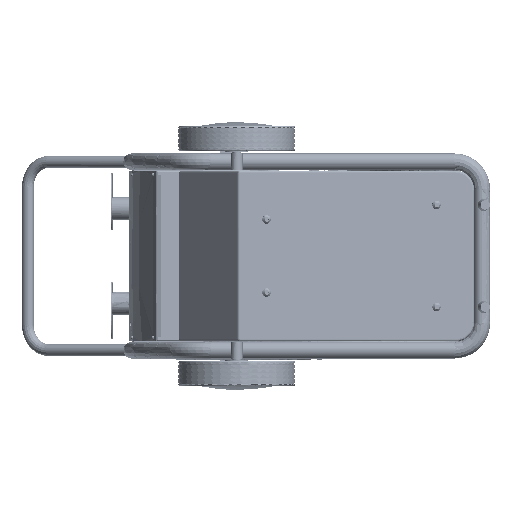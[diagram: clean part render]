
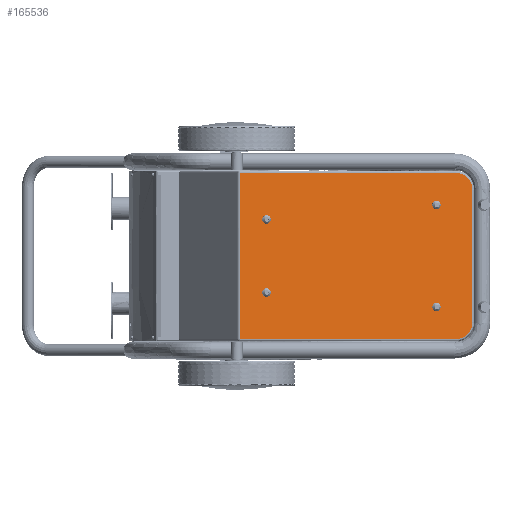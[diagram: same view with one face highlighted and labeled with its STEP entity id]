
A CAD part, front view. The second image highlights one B-rep face of the part: STEP entity #165536.
In plain terms, the highlighted free-form (B-spline) face has degree [1, 1] with [2, 2] control points.
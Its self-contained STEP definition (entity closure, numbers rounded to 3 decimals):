
#164371=CARTESIAN_POINT('V1195',(-250.126,
   -460.917,293.0));
#164372=VERTEX_POINT('V1195',#164371);
#164378=CARTESIAN_POINT('E1658',(-250.126,
   -460.917,293.0));
#164379=CARTESIAN_POINT('E1658',(-250.126,
   -460.917,277.412));
#164380=CARTESIAN_POINT('E1658',(-263.295,
   -463.886,285.206));
#164381=CARTESIAN_POINT('E1658',(-276.465,
   -466.855,293.0));
#164382=CARTESIAN_POINT('E1658',(-263.295,
   -463.886,300.794));
#164383=CARTESIAN_POINT('E1658',(-250.126,
   -460.917,308.588));
#164384=CARTESIAN_POINT('E1658',(-250.126,
   -460.917,293.0));
#164392=(BOUNDED_CURVE()B_SPLINE_CURVE(2,(#164378,#164379,#164380,
   #164381,#164382,#164383,#164384),.CIRCULAR_ARC.,.T.,.U.)
   B_SPLINE_CURVE_WITH_KNOTS((3,2,2,3),(0.0,0.333,
   0.667,1.0),.UNSPECIFIED.)CURVE()
   GEOMETRIC_REPRESENTATION_ITEM()RATIONAL_B_SPLINE_CURVE((1.0,
   0.5,1.0,0.5,1.0,0.5,1.0)
   )REPRESENTATION_ITEM('E1658'));
#164393=EDGE_CURVE('E1658',#164372,#164372,#164392,.T.);
#164705=CARTESIAN_POINT('V1341',(-250.126,
   -460.917,139.0));
#164706=VERTEX_POINT('V1341',#164705);
#164712=CARTESIAN_POINT('E1908',(-250.126,
   -460.917,139.0));
#164713=CARTESIAN_POINT('E1908',(-250.126,
   -460.917,123.412));
#164714=CARTESIAN_POINT('E1908',(-263.295,
   -463.886,131.206));
#164715=CARTESIAN_POINT('E1908',(-276.465,
   -466.855,139.0));
#164716=CARTESIAN_POINT('E1908',(-263.295,
   -463.886,146.794));
#164717=CARTESIAN_POINT('E1908',(-250.126,
   -460.917,154.588));
#164718=CARTESIAN_POINT('E1908',(-250.126,
   -460.917,139.0));
#164726=(BOUNDED_CURVE()B_SPLINE_CURVE(2,(#164712,#164713,#164714,
   #164715,#164716,#164717,#164718),.CIRCULAR_ARC.,.T.,.U.)
   B_SPLINE_CURVE_WITH_KNOTS((3,2,2,3),(0.0,0.333,
   0.667,1.0),.UNSPECIFIED.)CURVE()
   GEOMETRIC_REPRESENTATION_ITEM()RATIONAL_B_SPLINE_CURVE((1.0,
   0.5,1.0,0.5,1.0,0.5,1.0)
   )REPRESENTATION_ITEM('E1908'));
#164727=EDGE_CURVE('E1908',#164706,#164706,#164726,.T.);
#165039=CARTESIAN_POINT('V1211',(107.888,
   -380.202,108.5));
#165040=VERTEX_POINT('V1211',#165039);
#165046=CARTESIAN_POINT('E1682',(107.888,
   -380.202,108.5));
#165047=CARTESIAN_POINT('E1682',(107.888,
   -380.202,92.912));
#165048=CARTESIAN_POINT('E1682',(94.719,
   -383.171,100.706));
#165049=CARTESIAN_POINT('E1682',(81.549,
   -386.14,108.5));
#165050=CARTESIAN_POINT('E1682',(94.719,
   -383.171,116.294));
#165051=CARTESIAN_POINT('E1682',(107.888,
   -380.202,124.088));
#165052=CARTESIAN_POINT('E1682',(107.888,
   -380.202,108.5));
#165060=(BOUNDED_CURVE()B_SPLINE_CURVE(2,(#165046,#165047,#165048,
   #165049,#165050,#165051,#165052),.CIRCULAR_ARC.,.T.,.U.)
   B_SPLINE_CURVE_WITH_KNOTS((3,2,2,3),(0.0,0.333,
   0.667,1.0),.UNSPECIFIED.)CURVE()
   GEOMETRIC_REPRESENTATION_ITEM()RATIONAL_B_SPLINE_CURVE((1.0,
   0.5,1.0,0.5,1.0,0.5,1.0)
   )REPRESENTATION_ITEM('E1682'));
#165061=EDGE_CURVE('E1682',#165040,#165040,#165060,.T.);
#165373=CARTESIAN_POINT('V1324',(107.888,
   -380.202,323.5));
#165374=VERTEX_POINT('V1324',#165373);
#165380=CARTESIAN_POINT('E1883',(107.888,
   -380.202,323.5));
#165381=CARTESIAN_POINT('E1883',(107.888,
   -380.202,307.912));
#165382=CARTESIAN_POINT('E1883',(94.719,
   -383.171,315.706));
#165383=CARTESIAN_POINT('E1883',(81.549,
   -386.14,323.5));
#165384=CARTESIAN_POINT('E1883',(94.719,
   -383.171,331.294));
#165385=CARTESIAN_POINT('E1883',(107.888,
   -380.202,339.088));
#165386=CARTESIAN_POINT('E1883',(107.888,
   -380.202,323.5));
#165394=(BOUNDED_CURVE()B_SPLINE_CURVE(2,(#165380,#165381,#165382,
   #165383,#165384,#165385,#165386),.CIRCULAR_ARC.,.T.,.U.)
   B_SPLINE_CURVE_WITH_KNOTS((3,2,2,3),(0.0,0.333,
   0.667,1.0),.UNSPECIFIED.)CURVE()
   GEOMETRIC_REPRESENTATION_ITEM()RATIONAL_B_SPLINE_CURVE((1.0,
   0.5,1.0,0.5,1.0,0.5,1.0)
   )REPRESENTATION_ITEM('E1883'));
#165395=EDGE_CURVE('E1883',#165374,#165374,#165394,.T.);
#165422=CARTESIAN_POINT('V1295',(-314.817,
   -475.502,41.));
#165423=VERTEX_POINT('V1295',#165422);
#165437=CARTESIAN_POINT('V1296',(-314.817,
   -475.502,391.0));
#165438=VERTEX_POINT('V1296',#165437);
#165439=CARTESIAN_POINT('E1823',(-314.817,
   -475.502,391.0));
#165440=CARTESIAN_POINT('E1823',(-314.817,
   -475.502,41.));
#165441=B_SPLINE_CURVE_WITH_KNOTS('E1823',1,(#165439,#165440),
   .POLYLINE_FORM.,.F.,.U.,(2,2),(2.881,
   64.585),.UNSPECIFIED.);
#165442=EDGE_CURVE('E1823',#165438,#165423,#165441,.T.);
#165467=CARTESIAN_POINT('F692',(-342.8,
   -481.811,36.));
#165468=CARTESIAN_POINT('F692',(179.589,
   -364.037,36.));
#165469=CARTESIAN_POINT('F692',(-342.8,
   -481.811,396.0));
#165470=CARTESIAN_POINT('F692',(179.589,
   -364.037,396.0));
#165471=B_SPLINE_SURFACE_WITH_KNOTS('F692',1,1,((#165467,#165469),
   (#165468,#165470)),.PLANE_SURF.,.F.,.F.,.U.,(2,2),(2,2),(0.0,
   1.488),(0.0,1.0),.UNSPECIFIED.);
#165472=CARTESIAN_POINT('V1300',(140.568,
   -372.834,41.));
#165473=VERTEX_POINT('V1300',#165472);
#165474=CARTESIAN_POINT('E1835',(-314.817,
   -475.502,41.));
#165475=CARTESIAN_POINT('E1835',(140.568,
   -372.834,41.));
#165476=B_SPLINE_CURVE_WITH_KNOTS('E1835',1,(#165474,#165475),
   .POLYLINE_FORM.,.F.,.U.,(2,2),(2.0,61.437),
   .UNSPECIFIED.);
#165477=EDGE_CURVE('E1835',#165423,#165473,#165476,.T.);
#165478=ORIENTED_EDGE('E1835',*,*,#165477,.T.);
#165479=CARTESIAN_POINT('V1299',(174.711,
   -365.136,76.));
#165480=VERTEX_POINT('V1299',#165479);
#165481=CARTESIAN_POINT('E1832',(140.568,
   -372.834,41.));
#165482=CARTESIAN_POINT('E1832',(174.711,
   -365.136,41.));
#165483=CARTESIAN_POINT('E1832',(174.711,
   -365.136,76.));
#165491=(BOUNDED_CURVE()B_SPLINE_CURVE(2,(#165481,#165482,#165483),
   .CIRCULAR_ARC.,.F.,.U.)B_SPLINE_CURVE_WITH_KNOTS((3,3),(2.0,
   9.0),.UNSPECIFIED.)CURVE()GEOMETRIC_REPRESENTATION_ITEM()
   RATIONAL_B_SPLINE_CURVE((1.0,0.707,1.0))
   REPRESENTATION_ITEM('E1832'));
#165492=EDGE_CURVE('E1832',#165473,#165480,#165491,.T.);
#165493=ORIENTED_EDGE('E1832',*,*,#165492,.T.);
#165494=CARTESIAN_POINT('V1298',(174.711,
   -365.136,356.0));
#165495=VERTEX_POINT('V1298',#165494);
#165496=CARTESIAN_POINT('E1830',(174.711,
   -365.136,76.));
#165497=CARTESIAN_POINT('E1830',(174.711,
   -365.136,356.0));
#165498=B_SPLINE_CURVE_WITH_KNOTS('E1830',1,(#165496,#165497),
   .POLYLINE_FORM.,.F.,.U.,(2,2),(2.0,37.651),
   .UNSPECIFIED.);
#165499=EDGE_CURVE('E1830',#165480,#165495,#165498,.T.);
#165500=ORIENTED_EDGE('E1830',*,*,#165499,.T.);
#165501=CARTESIAN_POINT('V1297',(140.568,
   -372.834,391.0));
#165502=VERTEX_POINT('V1297',#165501);
#165503=CARTESIAN_POINT('E1828',(174.711,
   -365.136,356.0));
#165504=CARTESIAN_POINT('E1828',(174.711,
   -365.136,391.0));
#165505=CARTESIAN_POINT('E1828',(140.568,
   -372.834,391.0));
#165513=(BOUNDED_CURVE()B_SPLINE_CURVE(2,(#165503,#165504,#165505),
   .CIRCULAR_ARC.,.F.,.U.)B_SPLINE_CURVE_WITH_KNOTS((3,3),(2.0,
   9.0),.UNSPECIFIED.)CURVE()GEOMETRIC_REPRESENTATION_ITEM()
   RATIONAL_B_SPLINE_CURVE((1.0,0.707,1.0))
   REPRESENTATION_ITEM('E1828'));
#165514=EDGE_CURVE('E1828',#165495,#165502,#165513,.T.);
#165515=ORIENTED_EDGE('E1828',*,*,#165514,.T.);
#165516=CARTESIAN_POINT('E1826',(140.568,
   -372.834,391.0));
#165517=CARTESIAN_POINT('E1826',(-314.817,
   -475.502,391.0));
#165518=B_SPLINE_CURVE_WITH_KNOTS('E1826',1,(#165516,#165517),
   .POLYLINE_FORM.,.F.,.U.,(2,2),(2.702,
   62.139),.UNSPECIFIED.);
#165519=EDGE_CURVE('E1826',#165502,#165438,#165518,.T.);
#165520=ORIENTED_EDGE('E1826',*,*,#165519,.T.);
#165521=ORIENTED_EDGE('E1823',*,*,#165442,.T.);
#165522=EDGE_LOOP('F692',(#165478,#165493,#165500,#165515,#165520,
   #165521));
#165523=FACE_OUTER_BOUND('F692',#165522,.T.);
#165524=ORIENTED_EDGE('E1883',*,*,#165395,.T.);
#165525=EDGE_LOOP('F692',(#165524));
#165526=FACE_BOUND('F692',#165525,.T.);
#165527=ORIENTED_EDGE('E1682',*,*,#165061,.T.);
#165528=EDGE_LOOP('F692',(#165527));
#165529=FACE_BOUND('F692',#165528,.T.);
#165530=ORIENTED_EDGE('E1908',*,*,#164727,.T.);
#165531=EDGE_LOOP('F692',(#165530));
#165532=FACE_BOUND('F692',#165531,.T.);
#165533=ORIENTED_EDGE('E1658',*,*,#164393,.T.);
#165534=EDGE_LOOP('F692',(#165533));
#165535=FACE_BOUND('F692',#165534,.T.);
#165536=ADVANCED_FACE('F692',(#165523,#165526,#165529,#165532,
   #165535),#165471,.T.);
